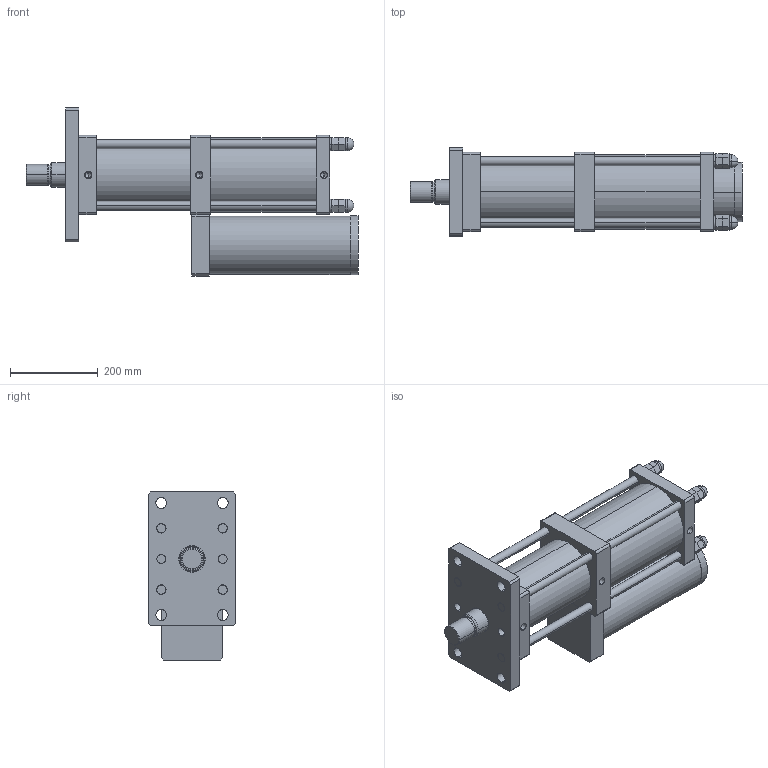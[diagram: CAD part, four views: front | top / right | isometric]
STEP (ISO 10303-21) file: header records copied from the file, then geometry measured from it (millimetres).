
FILE_DESCRIPTION (( 'STEP AP203' ), '1' );
FILE_NAME ('CPT-125-150-10-20T.STEP', '2016-03-12T02:00:32', ( 'WIN' ), ( '' ), 'SwSTEP 2.0', 'SolidWorks 2014', '' );
FILE_SCHEMA (( 'CONFIG_CONTROL_DESIGN' ));
Length unit declared in the file: millimetre
Products named in the file (1): CPT-125-150-10-20T
Bounding box: 755.5 x 200 x 382.5 mm (x, y, z)
Volume: 16832800.1 mm3; surface area: 1254902.5 mm2
Topology: 17 solids, 17 shells, 321 faces, 732 edges, 458 vertices
Faces by surface type: plane 155, cylinder 124, cone 30, sphere 8, torus 4
Entity records: 8969 total; most frequent: DIRECTION 1654, CARTESIAN_POINT 1480, ORIENTED_EDGE 1416, EDGE_CURVE 708, AXIS2_PLACEMENT_3D 624, VERTEX_POINT 450, LINE 406, VECTOR 406
